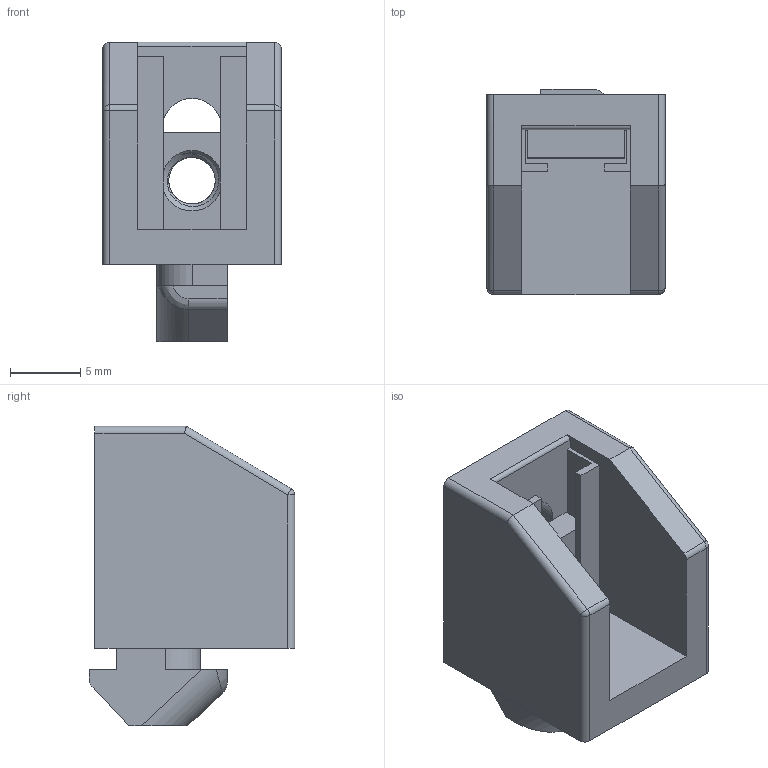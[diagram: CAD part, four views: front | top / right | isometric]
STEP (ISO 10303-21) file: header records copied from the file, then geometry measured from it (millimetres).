
FILE_DESCRIPTION(/* description */ ('STEP AP203'),/* implementation_level */ '2;1');
FILE_NAME(/* name */ 'Panel Bracket - 20 Series.step',/* time_stamp */ '2025-09-26T16:15:46+03:00',/* author */ (''),/* organization */ (''),/* preprocessor_version */ 'ST-DEVELOPER v20.1',/* originating_system */ 'Autodesk Translation Framework v14.17.0.0',/* authorisation */ '');
FILE_SCHEMA (('AUTOMOTIVE_DESIGN { 1 0 10303 214 3 1 1 }'));
Length unit declared in the file: millimetre
Products named in the file (1): 360.0500A.01
Bounding box: 12.7 x 14.6 x 21.3 mm (x, y, z)
Volume: 1764.5 mm3; surface area: 1827.9 mm2
Topology: 2 solids, 2 shells, 78 faces, 212 edges, 137 vertices
Faces by surface type: plane 43, cylinder 22, bspline 6, cone 5, sphere 2
Full cylindrical faces by diameter (mm): 2 x2, 3.3 x1
Entity records: 3685 total; most frequent: CARTESIAN_POINT 1701, ORIENTED_EDGE 424, DIRECTION 378, EDGE_CURVE 212, VERTEX_POINT 137, LINE 136, VECTOR 136, AXIS2_PLACEMENT_3D 121
